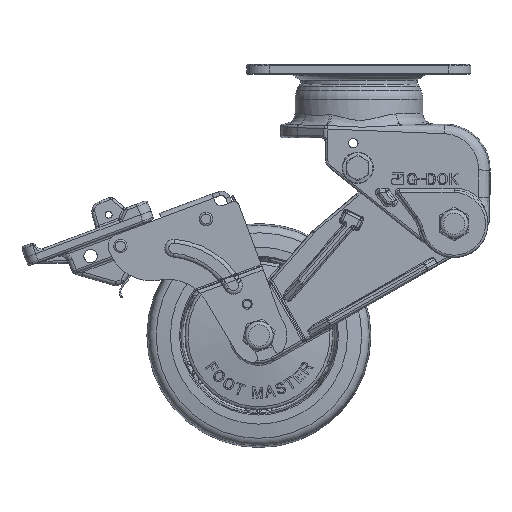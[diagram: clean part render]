
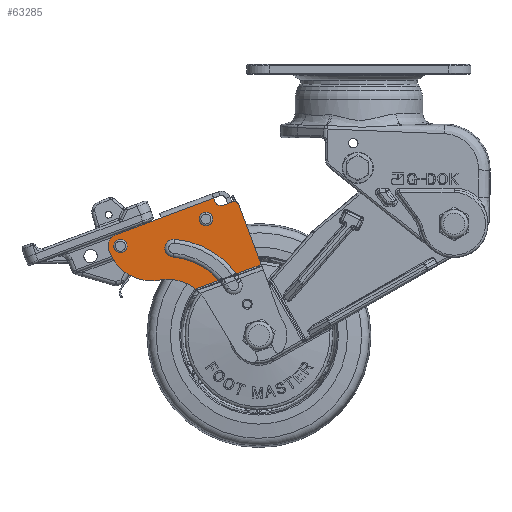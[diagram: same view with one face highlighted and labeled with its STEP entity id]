
A CAD part, front view. The second image highlights one B-rep face of the part: STEP entity #63285.
In plain terms, the highlighted planar face has unit normal (0, -1, 0).
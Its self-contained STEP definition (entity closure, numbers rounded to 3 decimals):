
#5453=FACE_BOUND('',#10328,.T.);
#5454=FACE_BOUND('',#10329,.T.);
#6488=FACE_OUTER_BOUND('',#10327,.T.);
#10327=EDGE_LOOP('',(#43131,#43132,#43133,#43134,#43135,#43136,#43137,#43138,
#43139,#43140,#43141,#43142,#43143,#43144,#43145,#43146,#43147));
#10328=EDGE_LOOP('',(#43148));
#10329=EDGE_LOOP('',(#43149));
#13853=CIRCLE('',#67556,2.25);
#13864=CIRCLE('',#67571,38.);
#13865=CIRCLE('',#67572,38.);
#13866=CIRCLE('',#67573,2.);
#13867=CIRCLE('',#67574,3.);
#13868=CIRCLE('',#67575,5.5);
#13869=CIRCLE('',#67576,20.);
#13870=CIRCLE('',#67577,20.);
#13871=CIRCLE('',#67578,30.);
#13872=CIRCLE('',#67579,4.);
#13873=CIRCLE('',#67580,2.25);
#17345=LINE('',#99700,#21048);
#17346=LINE('',#99702,#21049);
#17347=LINE('',#99706,#21050);
#17348=LINE('',#99710,#21051);
#17349=LINE('',#99712,#21052);
#17350=LINE('',#99714,#21053);
#17351=LINE('',#99718,#21054);
#17352=LINE('',#99724,#21055);
#21048=VECTOR('',#76296,10.);
#21049=VECTOR('',#76297,8.587);
#21050=VECTOR('',#76300,4.474);
#21051=VECTOR('',#76303,3.5);
#21052=VECTOR('',#76304,10.);
#21053=VECTOR('',#76305,21.526);
#21054=VECTOR('',#76308,10.);
#21055=VECTOR('',#76313,10.);
#25003=VERTEX_POINT('',#99651);
#25022=VERTEX_POINT('',#99694);
#25023=VERTEX_POINT('',#99695);
#25024=VERTEX_POINT('',#99697);
#25025=VERTEX_POINT('',#99699);
#25026=VERTEX_POINT('',#99701);
#25027=VERTEX_POINT('',#99703);
#25028=VERTEX_POINT('',#99705);
#25029=VERTEX_POINT('',#99707);
#25030=VERTEX_POINT('',#99709);
#25031=VERTEX_POINT('',#99711);
#25032=VERTEX_POINT('',#99713);
#25033=VERTEX_POINT('',#99715);
#25034=VERTEX_POINT('',#99717);
#25035=VERTEX_POINT('',#99719);
#25036=VERTEX_POINT('',#99721);
#25037=VERTEX_POINT('',#99723);
#25038=VERTEX_POINT('',#99725);
#25039=VERTEX_POINT('',#99728);
#31581=EDGE_CURVE('',#25003,#25003,#13853,.T.);
#31600=EDGE_CURVE('',#25022,#25023,#13864,.T.);
#31601=EDGE_CURVE('',#25023,#25024,#13865,.T.);
#31602=EDGE_CURVE('',#25024,#25025,#17345,.T.);
#31603=EDGE_CURVE('',#25026,#25025,#17346,.T.);
#31604=EDGE_CURVE('',#25027,#25026,#13866,.T.);
#31605=EDGE_CURVE('',#25028,#25027,#17347,.T.);
#31606=EDGE_CURVE('',#25029,#25028,#13867,.T.);
#31607=EDGE_CURVE('',#25030,#25029,#17348,.T.);
#31608=EDGE_CURVE('',#25031,#25030,#17349,.T.);
#31609=EDGE_CURVE('',#25032,#25031,#17350,.T.);
#31610=EDGE_CURVE('',#25033,#25032,#13868,.T.);
#31611=EDGE_CURVE('',#25034,#25033,#17351,.T.);
#31612=EDGE_CURVE('',#25035,#25034,#13869,.T.);
#31613=EDGE_CURVE('',#25035,#25036,#13870,.T.);
#31614=EDGE_CURVE('',#25036,#25037,#17352,.T.);
#31615=EDGE_CURVE('',#25037,#25038,#13871,.T.);
#31616=EDGE_CURVE('',#25038,#25022,#13872,.T.);
#31617=EDGE_CURVE('',#25039,#25039,#13873,.T.);
#43131=ORIENTED_EDGE('',*,*,#31600,.T.);
#43132=ORIENTED_EDGE('',*,*,#31601,.T.);
#43133=ORIENTED_EDGE('',*,*,#31602,.T.);
#43134=ORIENTED_EDGE('',*,*,#31603,.F.);
#43135=ORIENTED_EDGE('',*,*,#31604,.F.);
#43136=ORIENTED_EDGE('',*,*,#31605,.F.);
#43137=ORIENTED_EDGE('',*,*,#31606,.F.);
#43138=ORIENTED_EDGE('',*,*,#31607,.F.);
#43139=ORIENTED_EDGE('',*,*,#31608,.F.);
#43140=ORIENTED_EDGE('',*,*,#31609,.F.);
#43141=ORIENTED_EDGE('',*,*,#31610,.F.);
#43142=ORIENTED_EDGE('',*,*,#31611,.F.);
#43143=ORIENTED_EDGE('',*,*,#31612,.F.);
#43144=ORIENTED_EDGE('',*,*,#31613,.T.);
#43145=ORIENTED_EDGE('',*,*,#31614,.T.);
#43146=ORIENTED_EDGE('',*,*,#31615,.T.);
#43147=ORIENTED_EDGE('',*,*,#31616,.T.);
#43148=ORIENTED_EDGE('',*,*,#31617,.F.);
#43149=ORIENTED_EDGE('',*,*,#31581,.F.);
#57729=PLANE('',#67570);
#63285=ADVANCED_FACE('',(#6488,#5453,#5454),#57729,.F.);
#67556=AXIS2_PLACEMENT_3D('',#99653,#76254,#76255);
#67570=AXIS2_PLACEMENT_3D('',#99693,#76290,#76291);
#67571=AXIS2_PLACEMENT_3D('',#99696,#76292,#76293);
#67572=AXIS2_PLACEMENT_3D('',#99698,#76294,#76295);
#67573=AXIS2_PLACEMENT_3D('',#99704,#76298,#76299);
#67574=AXIS2_PLACEMENT_3D('',#99708,#76301,#76302);
#67575=AXIS2_PLACEMENT_3D('',#99716,#76306,#76307);
#67576=AXIS2_PLACEMENT_3D('',#99720,#76309,#76310);
#67577=AXIS2_PLACEMENT_3D('',#99722,#76311,#76312);
#67578=AXIS2_PLACEMENT_3D('',#99726,#76314,#76315);
#67579=AXIS2_PLACEMENT_3D('',#99727,#76316,#76317);
#67580=AXIS2_PLACEMENT_3D('',#99729,#76318,#76319);
#76254=DIRECTION('center_axis',(0.,-1.,0.));
#76255=DIRECTION('ref_axis',(0.,0.,-1.));
#76290=DIRECTION('center_axis',(0.,1.,0.));
#76291=DIRECTION('ref_axis',(-0.937,0.,-0.349));
#76292=DIRECTION('center_axis',(0.,1.,0.));
#76293=DIRECTION('ref_axis',(0.862,0.,0.507));
#76294=DIRECTION('center_axis',(0.,1.,0.));
#76295=DIRECTION('ref_axis',(0.862,0.,0.507));
#76296=DIRECTION('',(0.937,0.,0.349));
#76297=DIRECTION('',(0.349,0.,-0.937));
#76298=DIRECTION('center_axis',(0.,1.,0.));
#76299=DIRECTION('ref_axis',(0.937,0.,0.349));
#76300=DIRECTION('',(0.937,0.,0.349));
#76301=DIRECTION('center_axis',(0.,-1.,0.));
#76302=DIRECTION('ref_axis',(0.937,0.,0.349));
#76303=DIRECTION('',(0.349,0.,-0.937));
#76304=DIRECTION('',(0.937,0.,0.349));
#76305=DIRECTION('',(0.937,0.,0.349));
#76306=DIRECTION('center_axis',(0.,1.,0.));
#76307=DIRECTION('ref_axis',(0.937,0.,0.349));
#76308=DIRECTION('',(-0.349,0.,0.937));
#76309=DIRECTION('center_axis',(0.,1.,0.));
#76310=DIRECTION('ref_axis',(0.937,0.,0.349));
#76311=DIRECTION('center_axis',(0.,1.,0.));
#76312=DIRECTION('ref_axis',(0.862,0.,0.507));
#76313=DIRECTION('',(0.937,0.,0.349));
#76314=DIRECTION('center_axis',(0.,-1.,0.));
#76315=DIRECTION('ref_axis',(-0.862,0.,-0.507));
#76316=DIRECTION('center_axis',(0.,1.,0.));
#76317=DIRECTION('ref_axis',(0.079,0.,0.997));
#76318=DIRECTION('center_axis',(0.,-1.,0.));
#76319=DIRECTION('ref_axis',(0.,0.,-1.));
#99651=CARTESIAN_POINT('',(-105.665,-26.,-83.205));
#99653=CARTESIAN_POINT('Origin',(-106.451,-26.,-81.097));
#99693=CARTESIAN_POINT('Origin',(-84.12,-26.,-39.405));
#99694=CARTESIAN_POINT('',(-82.295,-26.,-78.022));
#99695=CARTESIAN_POINT('',(-54.954,-26.,-93.039));
#99696=CARTESIAN_POINT('Origin',(-85.306,-26.,-115.902));
#99697=CARTESIAN_POINT('',(-54.648,-26.,-93.451));
#99698=CARTESIAN_POINT('Origin',(-85.306,-26.,-115.902));
#99699=CARTESIAN_POINT('',(-43.611,-26.,-89.334));
#99700=CARTESIAN_POINT('',(-43.611,-26.,-89.334));
#99701=CARTESIAN_POINT('',(-53.633,-26.,-62.464));
#99702=CARTESIAN_POINT('',(-53.633,-26.,-62.464));
#99703=CARTESIAN_POINT('',(-56.206,-26.,-61.289));
#99704=CARTESIAN_POINT('Origin',(-55.507,-26.,-63.163));
#99705=CARTESIAN_POINT('',(-60.397,-26.,-62.852));
#99706=CARTESIAN_POINT('',(-60.397,-26.,-62.852));
#99707=CARTESIAN_POINT('',(-64.257,-26.,-61.09));
#99708=CARTESIAN_POINT('Origin',(-61.446,-26.,-60.041));
#99709=CARTESIAN_POINT('',(-64.781,-26.,-59.684));
#99710=CARTESIAN_POINT('',(-65.48,-26.,-57.81));
#99711=CARTESIAN_POINT('',(-88.204,-26.,-68.421));
#99712=CARTESIAN_POINT('',(-85.648,-26.,-67.467));
#99713=CARTESIAN_POINT('',(-108.373,-26.,-75.944));
#99714=CARTESIAN_POINT('',(-108.373,-26.,-75.944));
#99715=CARTESIAN_POINT('',(-111.605,-26.,-83.019));
#99716=CARTESIAN_POINT('Origin',(-106.451,-26.,-81.097));
#99717=CARTESIAN_POINT('',(-111.398,-26.,-83.573));
#99718=CARTESIAN_POINT('',(-108.11,-26.,-92.389));
#99719=CARTESIAN_POINT('',(-88.983,-26.,-96.243));
#99720=CARTESIAN_POINT('Origin',(-92.659,-26.,-76.584));
#99721=CARTESIAN_POINT('',(-72.863,-26.,-100.245));
#99722=CARTESIAN_POINT('Origin',(-85.306,-26.,-115.902));
#99723=CARTESIAN_POINT('',(-62.521,-26.,-96.387));
#99724=CARTESIAN_POINT('',(-43.611,-26.,-89.334));
#99725=CARTESIAN_POINT('',(-82.929,-26.,-85.996));
#99726=CARTESIAN_POINT('Origin',(-85.306,-26.,-115.902));
#99727=CARTESIAN_POINT('Origin',(-82.612,-26.,-82.009));
#99728=CARTESIAN_POINT('',(-67.484,-26.,-71.113));
#99729=CARTESIAN_POINT('Origin',(-68.27,-26.,-69.004));
